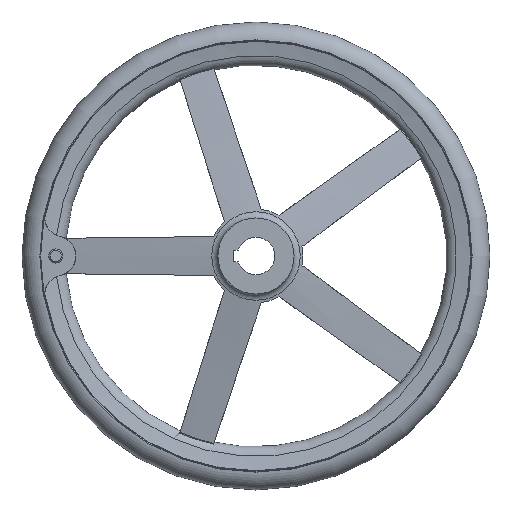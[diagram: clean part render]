
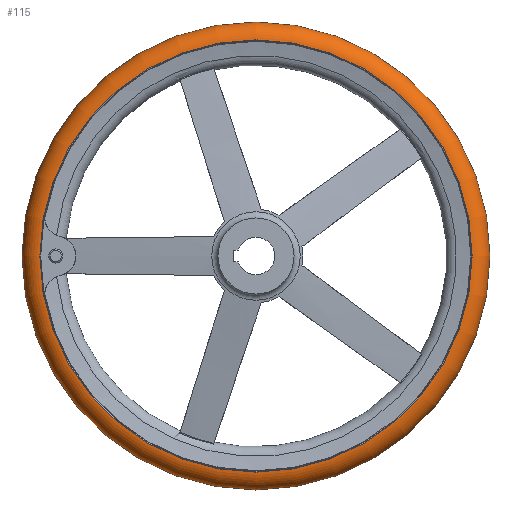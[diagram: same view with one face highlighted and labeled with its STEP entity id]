
A CAD part, left-side view. The second image highlights one B-rep face of the part: STEP entity #115.
In plain terms, the highlighted toroidal (fillet/blend) face has major radius 183.986 mm and minor radius 16.015 mm.
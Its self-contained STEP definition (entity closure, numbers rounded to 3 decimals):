
#115 = ADVANCED_FACE( '', ( #240, #241, #242 ), #243, .T. );
#240 = FACE_BOUND( '', #430, .T. );
#241 = FACE_OUTER_BOUND( '', #431, .T. );
#242 = FACE_OUTER_BOUND( '', #432, .T. );
#243 = TOROIDAL_SURFACE( '', #433, 183.986, 16.014 );
#430 = VERTEX_LOOP( '', #831 );
#431 = EDGE_LOOP( '', ( #832 ) );
#432 = EDGE_LOOP( '', ( #833 ) );
#433 = AXIS2_PLACEMENT_3D( '', #834, #835, #836 );
#831 = VERTEX_POINT( '', #1152 );
#832 = ORIENTED_EDGE( '', *, *, #1153, .T. );
#833 = ORIENTED_EDGE( '', *, *, #1154, .F. );
#834 = CARTESIAN_POINT( '', ( 47., 0., 0. ) );
#835 = DIRECTION( '', ( 1., 0., 0. ) );
#836 = DIRECTION( '', ( 0., 1., 0. ) );
#1152 = CARTESIAN_POINT( '', ( 47., 200., 0. ) );
#1153 = EDGE_CURVE( '', #1424, #1424, #1425, .T. );
#1154 = EDGE_CURVE( '', #1426, #1426, #1427, .T. );
#1424 = VERTEX_POINT( '', #2354 );
#1425 = CIRCLE( '', #2355, 184.667 );
#1426 = VERTEX_POINT( '', #2356 );
#1427 = CIRCLE( '', #2357, 184.667 );
#2354 = CARTESIAN_POINT( '', ( 31., 184.667, 0. ) );
#2355 = AXIS2_PLACEMENT_3D( '', #2613, #2614, #2615 );
#2356 = CARTESIAN_POINT( '', ( 63., 184.667, 0. ) );
#2357 = AXIS2_PLACEMENT_3D( '', #2616, #2617, #2618 );
#2613 = CARTESIAN_POINT( '', ( 31., 0., 0. ) );
#2614 = DIRECTION( '', ( 1., 0., 0. ) );
#2615 = DIRECTION( '', ( 0., 1., 0. ) );
#2616 = CARTESIAN_POINT( '', ( 63., 0., 0. ) );
#2617 = DIRECTION( '', ( 1., 0., 0. ) );
#2618 = DIRECTION( '', ( 0., 1., 0. ) );
